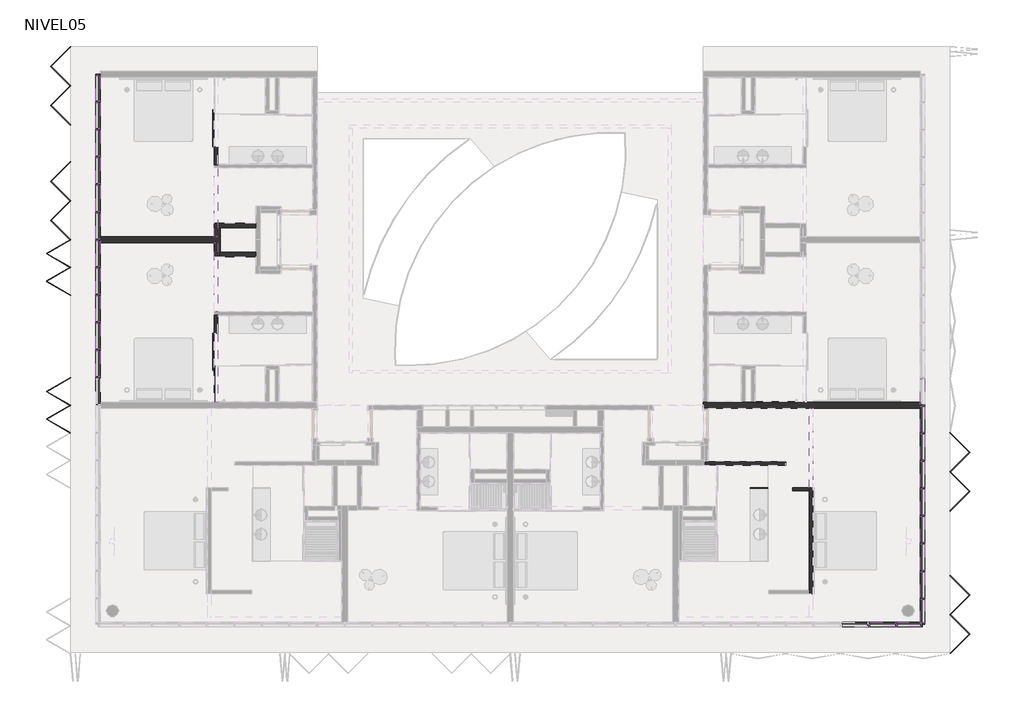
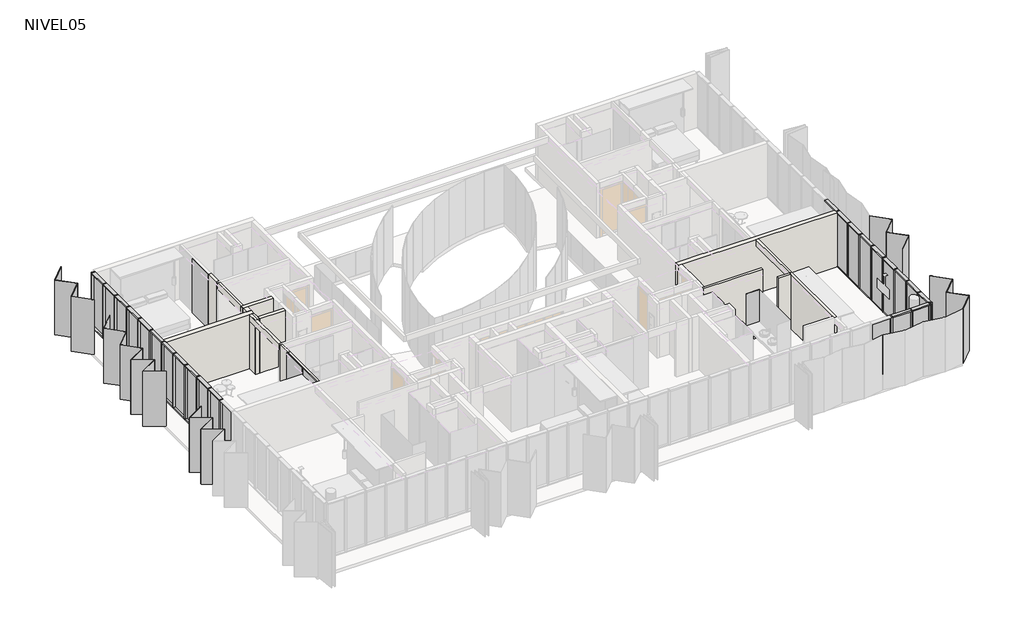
# One storey, part 4 of 8: 69 members, 30 plates, 18 walls.
"""IFC4 building model written with IfcOpenShell, lengths in millimetres."""

from ifc_helpers import new_model, si_unit, frame, origin, place, context, project, spatial, polyline, outline, extrude, faceted_brep, transform, mapped, element, save
from components import rectangular_mullion_50_x_150mm_8dc60d6a, rectangular_mullion_50_x_150mm_324a6438, rectangular_mullion_50_x_150mm_d09437e2, rectangular_mullion_50_x_150mm_5dc04e1f, rectangular_mullion_50_x_150mm_33c2bde1, rectangular_mullion_50_x_150mm_da4cfd0d, folding_hd_folding_hd_45_d1567fec, folding_hd_folding_hd_45_306ecaba, folding_hd_folding_hd_60_29c1f600, panel_corredera_cr_panel_corredera_8db39db7, panel_corredera_cr_panel_corredera_0b5135b5, system_panel_cr_shower_8ff19449, system_panel_cr_shower_d0c7b907, system_panel_glazed_8b30d0e9, system_panel_glazed_8b1c2311, system_panel_glazed_24c908d7, system_panel_glazed_6ccc6dc1

model = new_model("IFC4")

# Units and contexts
model_context = context("Model", 3, world=origin())
ifc_project = project(units=[si_unit("LENGTHUNIT", "METRE", prefix="MILLI")], contexts=[model_context])

# Site, building, storey
site = spatial("IfcSite", under=ifc_project)
building = spatial("IfcBuilding", under=site)
storey = spatial("IfcBuildingStorey", under=building, Name="NIVEL05", Elevation=10660.0)

# Members
placement = place(None, origin())
rectangular_mullion_50_x_150mm_shape = rectangular_mullion_50_x_150mm_8dc60d6a(model_context)
element("IfcMember", 1, ObjectType="Rectangular Mullion : 50 x 150mm", at=placement, inside=storey, context=model_context, shape_type="MappedRepresentation", body=[
    mapped(rectangular_mullion_50_x_150mm_shape, transform((-20633.5934748, 9658.9139237, 13210.0), x_axis=(0.0, 0.0, 1.0), y_axis=(-1.0, 0.0, 0.0), z_axis=(0.0, -1.0, 0.0))),
])
rectangular_mullion_50_x_150mm_2_shape = rectangular_mullion_50_x_150mm_324a6438(model_context)
element("IfcMember", 2, ObjectType="Rectangular Mullion : 50 x 150mm", at=placement, inside=storey, context=model_context, shape_type="MappedRepresentation", body=[
    mapped(rectangular_mullion_50_x_150mm_2_shape, transform((-20633.5934748, 8758.9139237, 13210.0), x_axis=(0.0, 0.0, 1.0), y_axis=(-1.0, 0.0, 0.0), z_axis=(0.0, -1.0, 0.0))),
])
element("IfcMember", 3, ObjectType="Rectangular Mullion : 50 x 150mm", at=placement, inside=storey, context=model_context, shape_type="MappedRepresentation", body=[
    mapped(rectangular_mullion_50_x_150mm_2_shape, transform((-20633.5934748, 7858.9139237, 13210.0), x_axis=(0.0, 0.0, 1.0), y_axis=(-1.0, 0.0, 0.0), z_axis=(0.0, -1.0, 0.0))),
])
element("IfcMember", 4, ObjectType="Rectangular Mullion : 50 x 150mm", at=placement, inside=storey, context=model_context, shape_type="MappedRepresentation", body=[
    mapped(rectangular_mullion_50_x_150mm_2_shape, transform((-20633.5934748, 6958.9139237, 13210.0), x_axis=(0.0, 0.0, 1.0), y_axis=(-1.0, 0.0, 0.0), z_axis=(0.0, -1.0, 0.0))),
])
element("IfcMember", 5, ObjectType="Rectangular Mullion : 50 x 150mm", at=placement, inside=storey, context=model_context, shape_type="MappedRepresentation", body=[
    mapped(rectangular_mullion_50_x_150mm_2_shape, transform((-20633.5934748, 6058.9139237, 13210.0), x_axis=(0.0, 0.0, 1.0), y_axis=(-1.0, 0.0, 0.0), z_axis=(0.0, -1.0, 0.0))),
])
element("IfcMember", 6, ObjectType="Rectangular Mullion : 50 x 150mm", at=placement, inside=storey, context=model_context, shape_type="MappedRepresentation", body=[
    mapped(rectangular_mullion_50_x_150mm_2_shape, transform((-20633.5934748, 5158.9139237, 13210.0), x_axis=(0.0, 0.0, 1.0), y_axis=(-1.0, 0.0, 0.0), z_axis=(0.0, -1.0, 0.0))),
])
element("IfcMember", 7, ObjectType="Rectangular Mullion : 50 x 150mm", at=placement, inside=storey, context=model_context, shape_type="MappedRepresentation", body=[
    mapped(rectangular_mullion_50_x_150mm_2_shape, transform((-20633.5934748, 4258.9139237, 13210.0), x_axis=(0.0, 0.0, 1.0), y_axis=(-1.0, 0.0, 0.0), z_axis=(0.0, -1.0, 0.0))),
])
element("IfcMember", 8, ObjectType="Rectangular Mullion : 50 x 150mm", at=placement, inside=storey, context=model_context, shape_type="MappedRepresentation", body=[
    mapped(rectangular_mullion_50_x_150mm_2_shape, transform((-20633.5934748, 3358.9139237, 13210.0), x_axis=(0.0, 0.0, 1.0), y_axis=(-1.0, 0.0, 0.0), z_axis=(0.0, -1.0, 0.0))),
])
element("IfcMember", 9, ObjectType="Rectangular Mullion : 50 x 150mm", at=placement, inside=storey, context=model_context, shape_type="MappedRepresentation", body=[
    mapped(rectangular_mullion_50_x_150mm_2_shape, transform((-20633.5934748, 2458.9139237, 13210.0), x_axis=(0.0, 0.0, 1.0), y_axis=(-1.0, 0.0, 0.0), z_axis=(0.0, -1.0, 0.0))),
])
element("IfcMember", 10, ObjectType="Rectangular Mullion : 50 x 150mm", at=placement, inside=storey, context=model_context, shape_type="MappedRepresentation", body=[
    mapped(rectangular_mullion_50_x_150mm_2_shape, transform((-20633.5934748, 1558.9139237, 13210.0), x_axis=(0.0, 0.0, 1.0), y_axis=(-1.0, 0.0, 0.0), z_axis=(0.0, -1.0, 0.0))),
])
element("IfcMember", 11, ObjectType="Rectangular Mullion : 50 x 150mm", at=placement, inside=storey, context=model_context, shape_type="MappedRepresentation", body=[
    mapped(rectangular_mullion_50_x_150mm_2_shape, transform((-20633.5934748, 658.9139237, 13210.0), x_axis=(0.0, 0.0, 1.0), y_axis=(-1.0, 0.0, 0.0), z_axis=(0.0, -1.0, 0.0))),
])
element("IfcMember", 12, ObjectType="Rectangular Mullion : 50 x 150mm", at=placement, inside=storey, context=model_context, shape_type="MappedRepresentation", body=[
    mapped(rectangular_mullion_50_x_150mm_shape, transform((-20633.5934748, 10483.9139241, 10640.0), x_axis=(0.0, 0.0, -1.0), y_axis=(-1.0, 0.0, 0.0), z_axis=(0.0, 1.0, 0.0))),
])
element("IfcMember", 13, ObjectType="Rectangular Mullion : 50 x 150mm", at=placement, inside=storey, context=model_context, shape_type="MappedRepresentation", body=[
    mapped(rectangular_mullion_50_x_150mm_2_shape, transform((-20633.5934748, 9608.9139237, 10640.0), x_axis=(0.0, 0.0, -1.0), y_axis=(-1.0, 0.0, 0.0), z_axis=(0.0, 1.0, 0.0))),
])
element("IfcMember", 14, ObjectType="Rectangular Mullion : 50 x 150mm", at=placement, inside=storey, context=model_context, shape_type="MappedRepresentation", body=[
    mapped(rectangular_mullion_50_x_150mm_2_shape, transform((-20633.5934748, 8708.9139237, 10640.0), x_axis=(0.0, 0.0, -1.0), y_axis=(-1.0, 0.0, 0.0), z_axis=(0.0, 1.0, 0.0))),
])
element("IfcMember", 15, ObjectType="Rectangular Mullion : 50 x 150mm", at=placement, inside=storey, context=model_context, shape_type="MappedRepresentation", body=[
    mapped(rectangular_mullion_50_x_150mm_2_shape, transform((-20633.5934748, 7808.9139237, 10640.0), x_axis=(0.0, 0.0, -1.0), y_axis=(-1.0, 0.0, 0.0), z_axis=(0.0, 1.0, 0.0))),
])
element("IfcMember", 16, ObjectType="Rectangular Mullion : 50 x 150mm", at=placement, inside=storey, context=model_context, shape_type="MappedRepresentation", body=[
    mapped(rectangular_mullion_50_x_150mm_2_shape, transform((-20633.5934748, 6908.9139237, 10640.0), x_axis=(0.0, 0.0, -1.0), y_axis=(-1.0, 0.0, 0.0), z_axis=(0.0, 1.0, 0.0))),
])
element("IfcMember", 17, ObjectType="Rectangular Mullion : 50 x 150mm", at=placement, inside=storey, context=model_context, shape_type="MappedRepresentation", body=[
    mapped(rectangular_mullion_50_x_150mm_2_shape, transform((-20633.5934748, 6008.9139237, 10640.0), x_axis=(0.0, 0.0, -1.0), y_axis=(-1.0, 0.0, 0.0), z_axis=(0.0, 1.0, 0.0))),
])
element("IfcMember", 18, ObjectType="Rectangular Mullion : 50 x 150mm", at=placement, inside=storey, context=model_context, shape_type="MappedRepresentation", body=[
    mapped(rectangular_mullion_50_x_150mm_2_shape, transform((-20633.5934748, 5108.9139237, 10640.0), x_axis=(0.0, 0.0, -1.0), y_axis=(-1.0, 0.0, 0.0), z_axis=(0.0, 1.0, 0.0))),
])
element("IfcMember", 19, ObjectType="Rectangular Mullion : 50 x 150mm", at=placement, inside=storey, context=model_context, shape_type="MappedRepresentation", body=[
    mapped(rectangular_mullion_50_x_150mm_2_shape, transform((-20633.5934748, 4208.9139237, 10640.0), x_axis=(0.0, 0.0, -1.0), y_axis=(-1.0, 0.0, 0.0), z_axis=(0.0, 1.0, 0.0))),
])
element("IfcMember", 20, ObjectType="Rectangular Mullion : 50 x 150mm", at=placement, inside=storey, context=model_context, shape_type="MappedRepresentation", body=[
    mapped(rectangular_mullion_50_x_150mm_2_shape, transform((-20633.5934748, 3308.9139237, 10640.0), x_axis=(0.0, 0.0, -1.0), y_axis=(-1.0, 0.0, 0.0), z_axis=(0.0, 1.0, 0.0))),
])
element("IfcMember", 21, ObjectType="Rectangular Mullion : 50 x 150mm", at=placement, inside=storey, context=model_context, shape_type="MappedRepresentation", body=[
    mapped(rectangular_mullion_50_x_150mm_2_shape, transform((-20633.5934748, 2408.9139237, 10640.0), x_axis=(0.0, 0.0, -1.0), y_axis=(-1.0, 0.0, 0.0), z_axis=(0.0, 1.0, 0.0))),
])
element("IfcMember", 22, ObjectType="Rectangular Mullion : 50 x 150mm", at=placement, inside=storey, context=model_context, shape_type="MappedRepresentation", body=[
    mapped(rectangular_mullion_50_x_150mm_2_shape, transform((-20633.5934748, 1508.9139237, 10640.0), x_axis=(0.0, 0.0, -1.0), y_axis=(-1.0, 0.0, 0.0), z_axis=(0.0, 1.0, 0.0))),
])
element("IfcMember", 23, ObjectType="Rectangular Mullion : 50 x 150mm", at=placement, inside=storey, context=model_context, shape_type="MappedRepresentation", body=[
    mapped(rectangular_mullion_50_x_150mm_2_shape, transform((-20633.5934748, 608.9139237, 10640.0), x_axis=(0.0, 0.0, -1.0), y_axis=(-1.0, 0.0, 0.0), z_axis=(0.0, 1.0, 0.0))),
])
element("IfcMember", 24, ObjectType="Rectangular Mullion : 50 x 150mm", at=placement, inside=storey, context=model_context, shape_type="MappedRepresentation", body=[
    mapped(rectangular_mullion_50_x_150mm_2_shape, transform((4541.4065252, -7416.0860759, 13210.0), x_axis=(0.0, 0.0, 1.0), y_axis=(0.0, 1.0, 0.0), z_axis=(-1.0, 0.0, 0.0))),
])
element("IfcMember", 25, ObjectType="Rectangular Mullion : 50 x 150mm", at=placement, inside=storey, context=model_context, shape_type="MappedRepresentation", body=[
    mapped(rectangular_mullion_50_x_150mm_2_shape, transform((4491.4065252, -7416.0860759, 10640.0), x_axis=(0.0, 0.0, -1.0), y_axis=(0.0, 1.0, 0.0), z_axis=(1.0, 0.0, 0.0))),
])
element("IfcMember", 26, ObjectType="Rectangular Mullion : 50 x 150mm", at=placement, inside=storey, context=model_context, shape_type="MappedRepresentation", body=[
    mapped(rectangular_mullion_50_x_150mm_2_shape, transform((5391.4065252, -7416.0860759, 10640.0), x_axis=(0.0, 0.0, -1.0), y_axis=(0.0, 1.0, 0.0), z_axis=(1.0, 0.0, 0.0))),
])
rectangular_mullion_50_x_150mm_3_shape = rectangular_mullion_50_x_150mm_d09437e2(model_context)
element("IfcMember", 27, ObjectType="Rectangular Mullion : 50 x 150mm", at=placement, inside=storey, context=model_context, shape_type="MappedRepresentation", body=[
    mapped(rectangular_mullion_50_x_150mm_3_shape, transform((6266.4065252, -7366.0860759, 13210.0), x_axis=(0.0, 0.0, 1.0), y_axis=(-1.0, 0.0, 0.0), z_axis=(0.0, -1.0, 0.0))),
])
element("IfcMember", 28, ObjectType="Rectangular Mullion : 50 x 150mm", at=placement, inside=storey, context=model_context, shape_type="MappedRepresentation", body=[
    mapped(rectangular_mullion_50_x_150mm_2_shape, transform((6266.4065252, -241.0860763, 13210.0), x_axis=(0.0, 0.0, 1.0), y_axis=(-1.0, 0.0, 0.0), z_axis=(0.0, -1.0, 0.0))),
])
element("IfcMember", 29, ObjectType="Rectangular Mullion : 50 x 150mm", at=placement, inside=storey, context=model_context, shape_type="MappedRepresentation", body=[
    mapped(rectangular_mullion_50_x_150mm_2_shape, transform((6266.4065252, -1141.0860763, 13210.0), x_axis=(0.0, 0.0, 1.0), y_axis=(-1.0, 0.0, 0.0), z_axis=(0.0, -1.0, 0.0))),
])
element("IfcMember", 30, ObjectType="Rectangular Mullion : 50 x 150mm", at=placement, inside=storey, context=model_context, shape_type="MappedRepresentation", body=[
    mapped(rectangular_mullion_50_x_150mm_2_shape, transform((6266.4065252, -2041.0860763, 13210.0), x_axis=(0.0, 0.0, 1.0), y_axis=(-1.0, 0.0, 0.0), z_axis=(0.0, -1.0, 0.0))),
])
element("IfcMember", 31, ObjectType="Rectangular Mullion : 50 x 150mm", at=placement, inside=storey, context=model_context, shape_type="MappedRepresentation", body=[
    mapped(rectangular_mullion_50_x_150mm_2_shape, transform((6266.4065252, -2941.0860763, 13210.0), x_axis=(0.0, 0.0, 1.0), y_axis=(-1.0, 0.0, 0.0), z_axis=(0.0, -1.0, 0.0))),
])
element("IfcMember", 32, ObjectType="Rectangular Mullion : 50 x 150mm", at=placement, inside=storey, context=model_context, shape_type="MappedRepresentation", body=[
    mapped(rectangular_mullion_50_x_150mm_2_shape, transform((6266.4065252, -3841.0860763, 13210.0), x_axis=(0.0, 0.0, 1.0), y_axis=(-1.0, 0.0, 0.0), z_axis=(0.0, -1.0, 0.0))),
])
element("IfcMember", 33, ObjectType="Rectangular Mullion : 50 x 150mm", at=placement, inside=storey, context=model_context, shape_type="MappedRepresentation", body=[
    mapped(rectangular_mullion_50_x_150mm_2_shape, transform((6266.4065252, -4741.0860763, 13210.0), x_axis=(0.0, 0.0, 1.0), y_axis=(-1.0, 0.0, 0.0), z_axis=(0.0, -1.0, 0.0))),
])
element("IfcMember", 34, ObjectType="Rectangular Mullion : 50 x 150mm", at=placement, inside=storey, context=model_context, shape_type="MappedRepresentation", body=[
    mapped(rectangular_mullion_50_x_150mm_2_shape, transform((6266.4065252, -5641.0860763, 13210.0), x_axis=(0.0, 0.0, 1.0), y_axis=(-1.0, 0.0, 0.0), z_axis=(0.0, -1.0, 0.0))),
])
element("IfcMember", 35, ObjectType="Rectangular Mullion : 50 x 150mm", at=placement, inside=storey, context=model_context, shape_type="MappedRepresentation", body=[
    mapped(rectangular_mullion_50_x_150mm_2_shape, transform((6266.4065252, -6541.0860763, 13210.0), x_axis=(0.0, 0.0, 1.0), y_axis=(-1.0, 0.0, 0.0), z_axis=(0.0, -1.0, 0.0))),
])
element("IfcMember", 36, ObjectType="Rectangular Mullion : 50 x 150mm", at=placement, inside=storey, context=model_context, shape_type="MappedRepresentation", body=[
    mapped(rectangular_mullion_50_x_150mm_2_shape, transform((6266.4065252, -291.0860763, 10640.0), x_axis=(0.0, 0.0, -1.0), y_axis=(-1.0, 0.0, 0.0), z_axis=(0.0, 1.0, 0.0))),
])
element("IfcMember", 37, ObjectType="Rectangular Mullion : 50 x 150mm", at=placement, inside=storey, context=model_context, shape_type="MappedRepresentation", body=[
    mapped(rectangular_mullion_50_x_150mm_2_shape, transform((6266.4065252, -1191.0860763, 10640.0), x_axis=(0.0, 0.0, -1.0), y_axis=(-1.0, 0.0, 0.0), z_axis=(0.0, 1.0, 0.0))),
])
element("IfcMember", 38, ObjectType="Rectangular Mullion : 50 x 150mm", at=placement, inside=storey, context=model_context, shape_type="MappedRepresentation", body=[
    mapped(rectangular_mullion_50_x_150mm_2_shape, transform((6266.4065252, -2091.0860763, 10640.0), x_axis=(0.0, 0.0, -1.0), y_axis=(-1.0, 0.0, 0.0), z_axis=(0.0, 1.0, 0.0))),
])
element("IfcMember", 39, ObjectType="Rectangular Mullion : 50 x 150mm", at=placement, inside=storey, context=model_context, shape_type="MappedRepresentation", body=[
    mapped(rectangular_mullion_50_x_150mm_2_shape, transform((6266.4065252, -2991.0860763, 10640.0), x_axis=(0.0, 0.0, -1.0), y_axis=(-1.0, 0.0, 0.0), z_axis=(0.0, 1.0, 0.0))),
])
element("IfcMember", 40, ObjectType="Rectangular Mullion : 50 x 150mm", at=placement, inside=storey, context=model_context, shape_type="MappedRepresentation", body=[
    mapped(rectangular_mullion_50_x_150mm_2_shape, transform((6266.4065252, -3891.0860763, 10640.0), x_axis=(0.0, 0.0, -1.0), y_axis=(-1.0, 0.0, 0.0), z_axis=(0.0, 1.0, 0.0))),
])
element("IfcMember", 41, ObjectType="Rectangular Mullion : 50 x 150mm", at=placement, inside=storey, context=model_context, shape_type="MappedRepresentation", body=[
    mapped(rectangular_mullion_50_x_150mm_2_shape, transform((6266.4065252, -4791.0860763, 10640.0), x_axis=(0.0, 0.0, -1.0), y_axis=(-1.0, 0.0, 0.0), z_axis=(0.0, 1.0, 0.0))),
])
element("IfcMember", 42, ObjectType="Rectangular Mullion : 50 x 150mm", at=placement, inside=storey, context=model_context, shape_type="MappedRepresentation", body=[
    mapped(rectangular_mullion_50_x_150mm_2_shape, transform((6266.4065252, -5691.0860763, 10640.0), x_axis=(0.0, 0.0, -1.0), y_axis=(-1.0, 0.0, 0.0), z_axis=(0.0, 1.0, 0.0))),
])
element("IfcMember", 43, ObjectType="Rectangular Mullion : 50 x 150mm", at=placement, inside=storey, context=model_context, shape_type="MappedRepresentation", body=[
    mapped(rectangular_mullion_50_x_150mm_3_shape, transform((6266.4065252, -6591.0860763, 10640.0), x_axis=(0.0, 0.0, -1.0), y_axis=(-1.0, 0.0, 0.0), z_axis=(0.0, 1.0, 0.0))),
])
rectangular_mullion_50_x_150mm_4_shape = rectangular_mullion_50_x_150mm_5dc04e1f(model_context)
element("IfcMember", 44, ObjectType="Rectangular Mullion : 50 x 150mm", at=placement, inside=storey, context=model_context, shape_type="MappedRepresentation", body=[
    mapped(rectangular_mullion_50_x_150mm_4_shape, transform((5441.4065252, -7416.0860759, 13210.0), x_axis=(0.0, 0.0, 1.0), y_axis=(0.0, 1.0, 0.0), z_axis=(-1.0, 0.0, 0.0))),
])
element("IfcMember", 45, ObjectType="Rectangular Mullion : 50 x 150mm", at=placement, inside=storey, context=model_context, shape_type="MappedRepresentation", body=[
    mapped(rectangular_mullion_50_x_150mm_4_shape, transform((6216.4065252, -7416.0860759, 10640.0), x_axis=(0.0, 0.0, -1.0), y_axis=(0.0, 1.0, 0.0), z_axis=(1.0, 0.0, 0.0))),
])
rectangular_mullion_50_x_150mm_5_shape = rectangular_mullion_50_x_150mm_33c2bde1(model_context)
element("IfcMember", 46, ObjectType="Rectangular Mullion : 50 x 150mm", at=placement, inside=storey, context=model_context, shape_type="MappedRepresentation", body=[
    mapped(rectangular_mullion_50_x_150mm_5_shape, transform((-20633.5934748, 9633.9139237, 10640.0), x_axis=(0.0, -1.0, 0.0), y_axis=(-1.0, 0.0, 0.0), z_axis=(0.0, 0.0, -1.0))),
])
element("IfcMember", 47, ObjectType="Rectangular Mullion : 50 x 150mm", at=placement, inside=storey, context=model_context, shape_type="MappedRepresentation", body=[
    mapped(rectangular_mullion_50_x_150mm_5_shape, transform((-20633.5934748, 8733.9139237, 10640.0), x_axis=(0.0, -1.0, 0.0), y_axis=(-1.0, 0.0, 0.0), z_axis=(0.0, 0.0, -1.0))),
])
element("IfcMember", 48, ObjectType="Rectangular Mullion : 50 x 150mm", at=placement, inside=storey, context=model_context, shape_type="MappedRepresentation", body=[
    mapped(rectangular_mullion_50_x_150mm_5_shape, transform((-20633.5934748, 7833.9139237, 10640.0), x_axis=(0.0, -1.0, 0.0), y_axis=(-1.0, 0.0, 0.0), z_axis=(0.0, 0.0, -1.0))),
])
element("IfcMember", 49, ObjectType="Rectangular Mullion : 50 x 150mm", at=placement, inside=storey, context=model_context, shape_type="MappedRepresentation", body=[
    mapped(rectangular_mullion_50_x_150mm_5_shape, transform((-20633.5934748, 6933.9139237, 10640.0), x_axis=(0.0, -1.0, 0.0), y_axis=(-1.0, 0.0, 0.0), z_axis=(0.0, 0.0, -1.0))),
])
element("IfcMember", 50, ObjectType="Rectangular Mullion : 50 x 150mm", at=placement, inside=storey, context=model_context, shape_type="MappedRepresentation", body=[
    mapped(rectangular_mullion_50_x_150mm_5_shape, transform((-20633.5934748, 6033.9139237, 10640.0), x_axis=(0.0, -1.0, 0.0), y_axis=(-1.0, 0.0, 0.0), z_axis=(0.0, 0.0, -1.0))),
])
element("IfcMember", 51, ObjectType="Rectangular Mullion : 50 x 150mm", at=placement, inside=storey, context=model_context, shape_type="MappedRepresentation", body=[
    mapped(rectangular_mullion_50_x_150mm_5_shape, transform((-20633.5934748, 5133.9139237, 10640.0), x_axis=(0.0, -1.0, 0.0), y_axis=(-1.0, 0.0, 0.0), z_axis=(0.0, 0.0, -1.0))),
])
element("IfcMember", 52, ObjectType="Rectangular Mullion : 50 x 150mm", at=placement, inside=storey, context=model_context, shape_type="MappedRepresentation", body=[
    mapped(rectangular_mullion_50_x_150mm_5_shape, transform((-20633.5934748, 4233.9139237, 10640.0), x_axis=(0.0, -1.0, 0.0), y_axis=(-1.0, 0.0, 0.0), z_axis=(0.0, 0.0, -1.0))),
])
element("IfcMember", 53, ObjectType="Rectangular Mullion : 50 x 150mm", at=placement, inside=storey, context=model_context, shape_type="MappedRepresentation", body=[
    mapped(rectangular_mullion_50_x_150mm_5_shape, transform((-20633.5934748, 3333.9139237, 10640.0), x_axis=(0.0, -1.0, 0.0), y_axis=(-1.0, 0.0, 0.0), z_axis=(0.0, 0.0, -1.0))),
])
element("IfcMember", 54, ObjectType="Rectangular Mullion : 50 x 150mm", at=placement, inside=storey, context=model_context, shape_type="MappedRepresentation", body=[
    mapped(rectangular_mullion_50_x_150mm_5_shape, transform((-20633.5934748, 2433.9139237, 10640.0), x_axis=(0.0, -1.0, 0.0), y_axis=(-1.0, 0.0, 0.0), z_axis=(0.0, 0.0, -1.0))),
])
element("IfcMember", 55, ObjectType="Rectangular Mullion : 50 x 150mm", at=placement, inside=storey, context=model_context, shape_type="MappedRepresentation", body=[
    mapped(rectangular_mullion_50_x_150mm_5_shape, transform((-20633.5934748, 1533.9139237, 10640.0), x_axis=(0.0, -1.0, 0.0), y_axis=(-1.0, 0.0, 0.0), z_axis=(0.0, 0.0, -1.0))),
])
element("IfcMember", 56, ObjectType="Rectangular Mullion : 50 x 150mm", at=placement, inside=storey, context=model_context, shape_type="MappedRepresentation", body=[
    mapped(rectangular_mullion_50_x_150mm_5_shape, transform((-20633.5934748, 633.9139237, 10640.0), x_axis=(0.0, -1.0, 0.0), y_axis=(-1.0, 0.0, 0.0), z_axis=(0.0, 0.0, -1.0))),
])
rectangular_mullion_50_x_150mm_6_shape = rectangular_mullion_50_x_150mm_da4cfd0d(model_context)
element("IfcMember", 57, ObjectType="Rectangular Mullion : 50 x 150mm", at=placement, inside=storey, context=model_context, shape_type="MappedRepresentation", body=[
    mapped(rectangular_mullion_50_x_150mm_6_shape, transform((-20633.5934748, 10533.9139241, 13210.0), x_axis=(0.0, 1.0, 0.0), y_axis=(-1.0, 0.0, 0.0), z_axis=(0.0, 0.0, 1.0))),
])
element("IfcMember", 58, ObjectType="Rectangular Mullion : 50 x 150mm", at=placement, inside=storey, context=model_context, shape_type="MappedRepresentation", body=[
    mapped(rectangular_mullion_50_x_150mm_5_shape, transform((4516.4065252, -7416.0860759, 10640.0), x_axis=(-1.0, 0.0, 0.0), y_axis=(0.0, 1.0, 0.0), z_axis=(0.0, 0.0, -1.0))),
])
element("IfcMember", 59, ObjectType="Rectangular Mullion : 50 x 150mm", at=placement, inside=storey, context=model_context, shape_type="MappedRepresentation", body=[
    mapped(rectangular_mullion_50_x_150mm_5_shape, transform((5416.4065252, -7416.0860759, 10640.0), x_axis=(-1.0, 0.0, 0.0), y_axis=(0.0, 1.0, 0.0), z_axis=(0.0, 0.0, -1.0))),
])
element("IfcMember", 60, ObjectType="Rectangular Mullion : 50 x 150mm", at=placement, inside=storey, context=model_context, shape_type="MappedRepresentation", body=[
    mapped(rectangular_mullion_50_x_150mm_6_shape, transform((6266.4065252, -7416.0860759, 13210.0), x_axis=(1.0, 0.0, 0.0), y_axis=(0.0, 1.0, 0.0), z_axis=(0.0, 0.0, 1.0))),
])
element("IfcMember", 61, ObjectType="Rectangular Mullion : 50 x 150mm", at=placement, inside=storey, context=model_context, shape_type="MappedRepresentation", body=[
    mapped(rectangular_mullion_50_x_150mm_5_shape, transform((6266.4065252, -266.0860763, 10640.0), x_axis=(0.0, -1.0, 0.0), y_axis=(-1.0, 0.0, 0.0), z_axis=(0.0, 0.0, -1.0))),
])
element("IfcMember", 62, ObjectType="Rectangular Mullion : 50 x 150mm", at=placement, inside=storey, context=model_context, shape_type="MappedRepresentation", body=[
    mapped(rectangular_mullion_50_x_150mm_5_shape, transform((6266.4065252, -1166.0860763, 10640.0), x_axis=(0.0, -1.0, 0.0), y_axis=(-1.0, 0.0, 0.0), z_axis=(0.0, 0.0, -1.0))),
])
element("IfcMember", 63, ObjectType="Rectangular Mullion : 50 x 150mm", at=placement, inside=storey, context=model_context, shape_type="MappedRepresentation", body=[
    mapped(rectangular_mullion_50_x_150mm_5_shape, transform((6266.4065252, -2066.0860763, 10640.0), x_axis=(0.0, -1.0, 0.0), y_axis=(-1.0, 0.0, 0.0), z_axis=(0.0, 0.0, -1.0))),
])
element("IfcMember", 64, ObjectType="Rectangular Mullion : 50 x 150mm", at=placement, inside=storey, context=model_context, shape_type="MappedRepresentation", body=[
    mapped(rectangular_mullion_50_x_150mm_5_shape, transform((6266.4065252, -2966.0860763, 10640.0), x_axis=(0.0, -1.0, 0.0), y_axis=(-1.0, 0.0, 0.0), z_axis=(0.0, 0.0, -1.0))),
])
element("IfcMember", 65, ObjectType="Rectangular Mullion : 50 x 150mm", at=placement, inside=storey, context=model_context, shape_type="MappedRepresentation", body=[
    mapped(rectangular_mullion_50_x_150mm_5_shape, transform((6266.4065252, -3866.0860763, 10640.0), x_axis=(0.0, -1.0, 0.0), y_axis=(-1.0, 0.0, 0.0), z_axis=(0.0, 0.0, -1.0))),
])
element("IfcMember", 66, ObjectType="Rectangular Mullion : 50 x 150mm", at=placement, inside=storey, context=model_context, shape_type="MappedRepresentation", body=[
    mapped(rectangular_mullion_50_x_150mm_5_shape, transform((6266.4065252, -4766.0860763, 10640.0), x_axis=(0.0, -1.0, 0.0), y_axis=(-1.0, 0.0, 0.0), z_axis=(0.0, 0.0, -1.0))),
])
element("IfcMember", 67, ObjectType="Rectangular Mullion : 50 x 150mm", at=placement, inside=storey, context=model_context, shape_type="MappedRepresentation", body=[
    mapped(rectangular_mullion_50_x_150mm_5_shape, transform((6266.4065252, -5666.0860763, 10640.0), x_axis=(0.0, -1.0, 0.0), y_axis=(-1.0, 0.0, 0.0), z_axis=(0.0, 0.0, -1.0))),
])
element("IfcMember", 68, ObjectType="Rectangular Mullion : 50 x 150mm", at=placement, inside=storey, context=model_context, shape_type="MappedRepresentation", body=[
    mapped(rectangular_mullion_50_x_150mm_5_shape, transform((6266.4065252, -6566.0860763, 10640.0), x_axis=(0.0, -1.0, 0.0), y_axis=(-1.0, 0.0, 0.0), z_axis=(0.0, 0.0, -1.0))),
])
element("IfcMember", 69, ObjectType="Rectangular Mullion : 50 x 150mm", at=placement, inside=storey, context=model_context, shape_type="MappedRepresentation", body=[
    mapped(rectangular_mullion_50_x_150mm_6_shape, transform((6266.4065252, -7416.0860759, 10640.0), x_axis=(0.0, -1.0, 0.0), y_axis=(-1.0, 0.0, 0.0), z_axis=(0.0, 0.0, -1.0))),
])

# Plates
folding_hd_folding_hd_45_shape = folding_hd_folding_hd_45_d1567fec(model_context)
element("IfcPlate", 70, ObjectType="FOLDING HD : FOLDING HD 45", at=placement, inside=storey, context=model_context, shape_type="MappedRepresentation", body=[
    mapped(folding_hd_folding_hd_45_shape, transform((7166.4065252, -4766.0860759, 10640.0), x_axis=(0.0, -1.0, 0.0), y_axis=(1.0, 0.0, 0.0), z_axis=(0.0, 0.0, 1.0))),
])
folding_hd_folding_hd_45_2_shape = folding_hd_folding_hd_45_306ecaba(model_context)
element("IfcPlate", 71, ObjectType="FOLDING HD : FOLDING HD 45", at=placement, inside=storey, context=model_context, shape_type="MappedRepresentation", body=[
    mapped(folding_hd_folding_hd_45_2_shape, transform((-21533.5934748, 8283.9139241, 10640.0), x_axis=(0.0, -1.0, 0.0), y_axis=(1.0, 0.0, 0.0), z_axis=(0.0, 0.0, 1.0))),
])
folding_hd_folding_hd_60_shape = folding_hd_folding_hd_60_29c1f600(model_context)
element("IfcPlate", 72, ObjectType="FOLDING HD : FOLDING HD 60", at=placement, inside=storey, context=model_context, shape_type="MappedRepresentation", body=[
    mapped(folding_hd_folding_hd_60_shape, transform((-21533.5934748, 1983.9139241, 10640.0), x_axis=(0.0, -1.0, 0.0), y_axis=(1.0, 0.0, 0.0), z_axis=(0.0, 0.0, 1.0))),
])
panel_corredera_cr_panel_corredera_shape = panel_corredera_cr_panel_corredera_8db39db7(model_context)
element("IfcPlate", 73, ObjectType="PANEL CORREDERA : CR_PANEL CORREDERA", at=placement, inside=storey, context=model_context, shape_type="MappedRepresentation", body=[
    mapped(panel_corredera_cr_panel_corredera_shape, transform((-16848.5934748, 8703.9139241, 10660.0), x_axis=(0.0, 1.0, 0.0), y_axis=(-1.0, 0.0, 0.0), z_axis=(0.0, 0.0, 1.0))),
])
panel_corredera_cr_panel_corredera_2_shape = panel_corredera_cr_panel_corredera_0b5135b5(model_context)
element("IfcPlate", 74, ObjectType="PANEL CORREDERA : CR_PANEL CORREDERA", at=placement, inside=storey, context=model_context, shape_type="MappedRepresentation", body=[
    mapped(panel_corredera_cr_panel_corredera_2_shape, transform((-16848.5934748, 1563.9139241, 10660.0), x_axis=(0.0, -1.0, 0.0), y_axis=(1.0, 0.0, 0.0), z_axis=(0.0, 0.0, 1.0))),
])
system_panel_cr_shower_shape = system_panel_cr_shower_8ff19449(model_context)
element("IfcPlate", 75, ObjectType="System Panel : CR-SHOWER", at=placement, inside=storey, context=model_context, shape_type="MappedRepresentation", body=[
    mapped(system_panel_cr_shower_shape, transform((936.4065252, -2966.0860763, 10660.0), x_axis=(1.0, 0.0, 0.0), y_axis=(0.0, 1.0, 0.0), z_axis=(0.0, 0.0, 1.0))),
])
system_panel_cr_shower_2_shape = system_panel_cr_shower_d0c7b907(model_context)
element("IfcPlate", 76, ObjectType="System Panel : CR-SHOWER", at=placement, inside=storey, context=model_context, shape_type="MappedRepresentation", body=[
    mapped(system_panel_cr_shower_2_shape, transform((-16848.5934748, 433.9139241, 10660.0), x_axis=(0.0, -1.0, 0.0), y_axis=(1.0, 0.0, 0.0), z_axis=(0.0, 0.0, 1.0))),
])
system_panel_glazed_shape = system_panel_glazed_8b30d0e9(model_context)
element("IfcPlate", 77, ObjectType="System Panel : Glazed", at=placement, inside=storey, context=model_context, shape_type="MappedRepresentation", body=[
    mapped(system_panel_glazed_shape, transform((-20633.5934748, 10071.4139239, 10690.0), x_axis=(0.0, -1.0, 0.0), y_axis=(1.0, 0.0, 0.0), z_axis=(0.0, 0.0, 1.0))),
])
system_panel_glazed_2_shape = system_panel_glazed_8b1c2311(model_context)
element("IfcPlate", 78, ObjectType="System Panel : Glazed", at=placement, inside=storey, context=model_context, shape_type="MappedRepresentation", body=[
    mapped(system_panel_glazed_2_shape, transform((-20633.5934748, 9183.9139237, 10690.0), x_axis=(0.0, -1.0, 0.0), y_axis=(1.0, 0.0, 0.0), z_axis=(0.0, 0.0, 1.0))),
])
element("IfcPlate", 79, ObjectType="System Panel : Glazed", at=placement, inside=storey, context=model_context, shape_type="MappedRepresentation", body=[
    mapped(system_panel_glazed_2_shape, transform((-20633.5934748, 8283.9139237, 10690.0), x_axis=(0.0, -1.0, 0.0), y_axis=(1.0, 0.0, 0.0), z_axis=(0.0, 0.0, 1.0))),
])
element("IfcPlate", 80, ObjectType="System Panel : Glazed", at=placement, inside=storey, context=model_context, shape_type="MappedRepresentation", body=[
    mapped(system_panel_glazed_2_shape, transform((-20633.5934748, 7383.9139237, 10690.0), x_axis=(0.0, -1.0, 0.0), y_axis=(1.0, 0.0, 0.0), z_axis=(0.0, 0.0, 1.0))),
])
element("IfcPlate", 81, ObjectType="System Panel : Glazed", at=placement, inside=storey, context=model_context, shape_type="MappedRepresentation", body=[
    mapped(system_panel_glazed_2_shape, transform((-20633.5934748, 6483.9139237, 10690.0), x_axis=(0.0, -1.0, 0.0), y_axis=(1.0, 0.0, 0.0), z_axis=(0.0, 0.0, 1.0))),
])
element("IfcPlate", 82, ObjectType="System Panel : Glazed", at=placement, inside=storey, context=model_context, shape_type="MappedRepresentation", body=[
    mapped(system_panel_glazed_2_shape, transform((-20633.5934748, 5583.9139237, 10690.0), x_axis=(0.0, -1.0, 0.0), y_axis=(1.0, 0.0, 0.0), z_axis=(0.0, 0.0, 1.0))),
])
element("IfcPlate", 83, ObjectType="System Panel : Glazed", at=placement, inside=storey, context=model_context, shape_type="MappedRepresentation", body=[
    mapped(system_panel_glazed_2_shape, transform((-20633.5934748, 4683.9139237, 10690.0), x_axis=(0.0, -1.0, 0.0), y_axis=(1.0, 0.0, 0.0), z_axis=(0.0, 0.0, 1.0))),
])
element("IfcPlate", 84, ObjectType="System Panel : Glazed", at=placement, inside=storey, context=model_context, shape_type="MappedRepresentation", body=[
    mapped(system_panel_glazed_2_shape, transform((-20633.5934748, 3783.9139237, 10690.0), x_axis=(0.0, -1.0, 0.0), y_axis=(1.0, 0.0, 0.0), z_axis=(0.0, 0.0, 1.0))),
])
element("IfcPlate", 85, ObjectType="System Panel : Glazed", at=placement, inside=storey, context=model_context, shape_type="MappedRepresentation", body=[
    mapped(system_panel_glazed_2_shape, transform((-20633.5934748, 2883.9139237, 10690.0), x_axis=(0.0, -1.0, 0.0), y_axis=(1.0, 0.0, 0.0), z_axis=(0.0, 0.0, 1.0))),
])
element("IfcPlate", 86, ObjectType="System Panel : Glazed", at=placement, inside=storey, context=model_context, shape_type="MappedRepresentation", body=[
    mapped(system_panel_glazed_2_shape, transform((-20633.5934748, 1983.9139237, 10690.0), x_axis=(0.0, -1.0, 0.0), y_axis=(1.0, 0.0, 0.0), z_axis=(0.0, 0.0, 1.0))),
])
element("IfcPlate", 87, ObjectType="System Panel : Glazed", at=placement, inside=storey, context=model_context, shape_type="MappedRepresentation", body=[
    mapped(system_panel_glazed_2_shape, transform((-20633.5934748, 1083.9139237, 10690.0), x_axis=(0.0, -1.0, 0.0), y_axis=(1.0, 0.0, 0.0), z_axis=(0.0, 0.0, 1.0))),
])
element("IfcPlate", 88, ObjectType="System Panel : Glazed", at=placement, inside=storey, context=model_context, shape_type="MappedRepresentation", body=[
    mapped(system_panel_glazed_2_shape, transform((-20633.5934748, 183.9139237, 10690.0), x_axis=(0.0, -1.0, 0.0), y_axis=(1.0, 0.0, 0.0), z_axis=(0.0, 0.0, 1.0))),
])
system_panel_glazed_3_shape = system_panel_glazed_24c908d7(model_context)
element("IfcPlate", 89, ObjectType="System Panel : Glazed", at=placement, inside=storey, context=model_context, shape_type="MappedRepresentation", body=[
    mapped(system_panel_glazed_3_shape, transform((5828.9065252, -7416.0860759, 10690.0), x_axis=(-1.0, 0.0, 0.0), y_axis=(0.0, -1.0, 0.0), z_axis=(0.0, 0.0, 1.0))),
])
element("IfcPlate", 90, ObjectType="System Panel : Glazed", at=placement, inside=storey, context=model_context, shape_type="MappedRepresentation", body=[
    mapped(system_panel_glazed_3_shape, transform((6266.4065252, -6978.5860761, 10690.0), x_axis=(0.0, -1.0, 0.0), y_axis=(1.0, 0.0, 0.0), z_axis=(0.0, 0.0, 1.0))),
])
system_panel_glazed_4_shape = system_panel_glazed_6ccc6dc1(model_context)
element("IfcPlate", 91, ObjectType="System Panel : Glazed", at=placement, inside=storey, context=model_context, shape_type="MappedRepresentation", body=[
    mapped(system_panel_glazed_4_shape, transform((4066.4065252, -7416.0860759, 10690.0), x_axis=(-1.0, 0.0, 0.0), y_axis=(0.0, -1.0, 0.0), z_axis=(0.0, 0.0, 1.0))),
])
element("IfcPlate", 92, ObjectType="System Panel : Glazed", at=placement, inside=storey, context=model_context, shape_type="MappedRepresentation", body=[
    mapped(system_panel_glazed_4_shape, transform((4966.4065252, -7416.0860759, 10690.0), x_axis=(-1.0, 0.0, 0.0), y_axis=(0.0, -1.0, 0.0), z_axis=(0.0, 0.0, 1.0))),
])
element("IfcPlate", 93, ObjectType="System Panel : Glazed", at=placement, inside=storey, context=model_context, shape_type="MappedRepresentation", body=[
    mapped(system_panel_glazed_4_shape, transform((6266.4065252, -716.0860763, 10690.0), x_axis=(0.0, -1.0, 0.0), y_axis=(1.0, 0.0, 0.0), z_axis=(0.0, 0.0, 1.0))),
])
element("IfcPlate", 94, ObjectType="System Panel : Glazed", at=placement, inside=storey, context=model_context, shape_type="MappedRepresentation", body=[
    mapped(system_panel_glazed_4_shape, transform((6266.4065252, -1616.0860763, 10690.0), x_axis=(0.0, -1.0, 0.0), y_axis=(1.0, 0.0, 0.0), z_axis=(0.0, 0.0, 1.0))),
])
element("IfcPlate", 95, ObjectType="System Panel : Glazed", at=placement, inside=storey, context=model_context, shape_type="MappedRepresentation", body=[
    mapped(system_panel_glazed_4_shape, transform((6266.4065252, -2516.0860763, 10690.0), x_axis=(0.0, -1.0, 0.0), y_axis=(1.0, 0.0, 0.0), z_axis=(0.0, 0.0, 1.0))),
])
element("IfcPlate", 96, ObjectType="System Panel : Glazed", at=placement, inside=storey, context=model_context, shape_type="MappedRepresentation", body=[
    mapped(system_panel_glazed_4_shape, transform((6266.4065252, -3416.0860763, 10690.0), x_axis=(0.0, -1.0, 0.0), y_axis=(1.0, 0.0, 0.0), z_axis=(0.0, 0.0, 1.0))),
])
element("IfcPlate", 97, ObjectType="System Panel : Glazed", at=placement, inside=storey, context=model_context, shape_type="MappedRepresentation", body=[
    mapped(system_panel_glazed_4_shape, transform((6266.4065252, -4316.0860763, 10690.0), x_axis=(0.0, -1.0, 0.0), y_axis=(1.0, 0.0, 0.0), z_axis=(0.0, 0.0, 1.0))),
])
element("IfcPlate", 98, ObjectType="System Panel : Glazed", at=placement, inside=storey, context=model_context, shape_type="MappedRepresentation", body=[
    mapped(system_panel_glazed_4_shape, transform((6266.4065252, -5216.0860763, 10690.0), x_axis=(0.0, -1.0, 0.0), y_axis=(1.0, 0.0, 0.0), z_axis=(0.0, 0.0, 1.0))),
])
element("IfcPlate", 99, ObjectType="System Panel : Glazed", at=placement, inside=storey, context=model_context, shape_type="MappedRepresentation", body=[
    mapped(system_panel_glazed_4_shape, transform((6266.4065252, -6116.0860763, 10690.0), x_axis=(0.0, -1.0, 0.0), y_axis=(1.0, 0.0, 0.0), z_axis=(0.0, 0.0, 1.0))),
])

# Walls
element("IfcWall", 100, ObjectType="SCV.TI.A.110.090.143.47.1", at=placement, inside=storey, context=model_context, shape_type="Brep", body=[
    faceted_brep([(-16738.5934748, 7593.9139241, 13210.0), (-16738.5934748, 7593.9139241, 10640.0), (-16738.5934748, 8173.9139241, 10640.0), (-16738.5934748, 8173.9139241, 12910.0), (-16738.5934748, 8173.9139241, 13210.0), (-16848.5934748, 7593.9139241, 10640.0), (-16848.5934748, 7593.9139241, 13210.0), (-16848.5934748, 8173.9139241, 13210.0), (-16848.5934748, 8173.9139241, 10640.0)], [[[0, 1, 2, 3, 4]], [[5, 6, 7, 8]], [[2, 1, 5, 8]], [[4, 3, 2, 8, 7]], [[0, 4, 7, 6]], [[0, 6, 5, 1]]]),
])
element("IfcWall", 101, ObjectType="REV-PORCELANATO_60*60", at=placement, inside=storey, context=model_context, shape_type="Brep", body=[
    faceted_brep([(-16728.5934748, 7593.9139241, 10680.0), (-16728.5934748, 7603.9139241, 10680.0), (-16728.5934748, 8173.9139241, 10680.0), (-16728.5934748, 8173.9139241, 12920.0), (-16728.5934748, 7603.9139241, 12920.0), (-16728.5934748, 7593.9139241, 12920.0), (-16738.5934748, 7593.9139241, 10680.0), (-16738.5934748, 7593.9139241, 12920.0), (-16738.5934748, 8173.9139241, 12920.0), (-16738.5934748, 8173.9139241, 10680.0)], [[[0, 1, 2, 3, 4, 5]], [[6, 7, 8, 9]], [[2, 1, 0, 6, 9]], [[3, 2, 9, 8]], [[5, 4, 3, 8, 7]], [[0, 5, 7, 6]]]),
])
element("IfcWall", 102, ObjectType="SCV.TI.A.110.090.143.47.1", at=placement, inside=storey, context=model_context, shape_type="Brep", body=[
    faceted_brep([(-833.5934748, -2216.0860759, 10640.0), (1806.4065252, -2216.0860759, 10640.0), (1806.4065252, -2216.0860759, 13210.0), (-833.5934748, -2216.0860759, 13210.0), (-833.5934748, -2106.0860759, 10640.0), (-833.5934748, -2106.0860759, 13210.0), (-723.5934748, -2106.0860759, 13210.0), (1806.4065252, -2106.0860759, 13210.0), (1806.4065252, -2106.0860759, 10640.0), (-723.5934748, -2106.0860759, 10640.0)], [[[0, 1, 2, 3]], [[4, 5, 6, 7, 8, 9]], [[1, 0, 4, 9, 8]], [[2, 1, 8, 7]], [[3, 2, 7, 6, 5]], [[0, 3, 5, 4]]]),
])
element("IfcWall", 103, ObjectType="SCV.TI.A.110.090.143.47.1", at=placement, inside=storey, context=model_context, shape_type="SweptSolid", body=[
    extrude(outline(polyline([(2576.4065252, -3061.0658633), (2035.2962079, -3061.0658633), (2035.2962079, -2951.0658633), (2576.4065252, -2951.0658633), (2576.4065252, -3061.0658633)])), frame((0.0, 0.0, 10640.0), z_axis=(0.0, 0.0, 1.0), x_axis=(1.0, 0.0, 0.0)), (0.0, 0.0, 1.0), 2570.0),
])
element("IfcWall", 104, ObjectType="SCV.TI.A.110.090.143.47.1", at=placement, inside=storey, context=model_context, shape_type="Brep", body=[
    faceted_brep([(2686.4065252, -6411.0658633, 13210.0), (2686.4065252, -6411.0658633, 12910.0), (2686.4065252, -6411.0658633, 10640.0), (2686.4065252, -2951.0658633, 10640.0), (2686.4065252, -2951.0658633, 12910.0), (2686.4065252, -2951.0658633, 13210.0), (2576.4065252, -6411.0658633, 10640.0), (2576.4065252, -6411.0658633, 12910.0), (2576.4065252, -6411.0658633, 13210.0), (2576.4065252, -6301.0658633, 13210.0), (2576.4065252, -3061.0658633, 13210.0), (2576.4065252, -2951.0658633, 13210.0), (2576.4065252, -2951.0658633, 12910.0), (2576.4065252, -2951.0658633, 10640.0), (2576.4065252, -3061.0658633, 10640.0), (2576.4065252, -6301.0658633, 10640.0)], [[[0, 1, 2, 3, 4, 5]], [[6, 7, 8, 9, 10, 11, 12, 13, 14, 15]], [[3, 2, 6, 15, 14, 13]], [[0, 5, 11, 10, 9, 8]], [[0, 8, 7, 6, 2, 1]], [[3, 13, 12, 11, 5, 4]]]),
])
element("IfcWall", 105, ObjectType="SCV.TI.A.110.090.143.47.1 2", at=placement, inside=storey, context=model_context, shape_type="SweptSolid", body=[
    extrude(outline(polyline([(-16848.5934748, 5233.9139241), (-16848.5934748, 7483.9139241), (-16738.5934748, 7483.9139241), (-16738.5934748, 5233.9139241), (-16848.5934748, 5233.9139241)])), frame((0.0, 0.0, 12910.0), z_axis=(0.0, 0.0, 1.0), x_axis=(1.0, 0.0, 0.0)), (0.0, 0.0, 1.0), 300.0),
])
element("IfcWall", 106, ObjectType="SCV.TI.A.110.090.143.47.1 2", at=placement, inside=storey, context=model_context, shape_type="SweptSolid", body=[
    extrude(outline(polyline([(2686.4065252, -366.0860759), (2686.4065252, -2951.0658633), (2576.4065252, -2951.0658633), (2576.4065252, -366.0860759), (2686.4065252, -366.0860759)])), frame((0.0, 0.0, 12910.0), z_axis=(0.0, 0.0, 1.0), x_axis=(1.0, 0.0, 0.0)), (0.0, 0.0, 1.0), 300.0),
])
element("IfcWall", 107, ObjectType="SCV.TI.A.150.120.212.47.1", at=placement, inside=storey, context=model_context, shape_type="SweptSolid", body=[
    extrude(outline(polyline([(-15493.5934748, 5533.9139241), (-16848.5934748, 5533.9139241), (-16848.5934748, 5683.9139241), (-15493.5934748, 5683.9139241), (-15493.5934748, 5533.9139241)])), frame((0.0, 0.0, 10640.0), z_axis=(0.0, 0.0, 1.0), x_axis=(1.0, 0.0, 0.0)), (0.0, 0.0, 1.0), 2570.0),
])
element("IfcWall", 108, ObjectType="SCV.TI.A.110.090.143.47.1", at=placement, inside=storey, context=model_context, shape_type="Brep", body=[
    faceted_brep([(-16848.5934748, 2673.9139241, 13210.0), (-16848.5934748, 2673.9139241, 10640.0), (-16848.5934748, 2093.9139241, 10640.0), (-16848.5934748, 2093.9139241, 13210.0), (-16738.5934748, 2673.9139241, 10640.0), (-16738.5934748, 2673.9139241, 13210.0), (-16738.5934748, 2093.9139241, 13210.0), (-16738.5934748, 2093.9139241, 12965.0), (-16738.5934748, 2093.9139241, 10640.0)], [[[0, 1, 2, 3]], [[4, 5, 6, 7, 8]], [[2, 1, 4, 8]], [[3, 2, 8, 7, 6]], [[0, 3, 6, 5]], [[0, 5, 4, 1]]]),
])
element("IfcWall", 109, ObjectType="REV-PORCELANATO_60*60", at=placement, inside=storey, context=model_context, shape_type="Brep", body=[
    faceted_brep([(-16738.5934748, 2673.9139241, 10680.0), (-16738.5934748, 2093.9139241, 10680.0), (-16738.5934748, 2093.9139241, 12920.0), (-16738.5934748, 2673.9139241, 12920.0), (-16728.5934748, 2673.9139241, 10680.0), (-16728.5934748, 2673.9139241, 12920.0), (-16728.5934748, 2663.9139241, 12920.0), (-16728.5934748, 2093.9139241, 12920.0), (-16728.5934748, 2093.9139241, 10680.0), (-16728.5934748, 2663.9139241, 10680.0)], [[[0, 1, 2, 3]], [[4, 5, 6, 7, 8, 9]], [[1, 0, 4, 9, 8]], [[2, 1, 8, 7]], [[3, 2, 7, 6, 5]], [[0, 3, 5, 4]]]),
])
element("IfcWall", 110, ObjectType="SCV.TI.A.110.090.143.47.1 2", at=placement, inside=storey, context=model_context, shape_type="SweptSolid", body=[
    extrude(outline(polyline([(-161.0860759, 13210.0), (2093.9139241, 13210.0), (2093.9139241, 12965.0), (-156.0860759, 12965.0), (-156.0860759, 12910.0), (-161.0860759, 12910.0), (-161.0860759, 13210.0)])), frame((-16848.5934748, 0.0, 0.0), z_axis=(1.0, 0.0, 0.0), x_axis=(0.0, 1.0, 0.0)), (0.0, 0.0, 1.0), 110.0),
])
element("IfcWall", 111, ObjectType="SCV.TI.A.110.090.143.47.1 2", at=placement, inside=storey, context=model_context, shape_type="SweptSolid", body=[
    extrude(outline(polyline([(-16738.5934748, 5033.9139241), (-16738.5934748, 2783.9139241), (-16848.5934748, 2783.9139241), (-16848.5934748, 5033.9139241), (-16738.5934748, 5033.9139241)])), frame((0.0, 0.0, 12910.0), z_axis=(0.0, 0.0, 1.0), x_axis=(1.0, 0.0, 0.0)), (0.0, 0.0, 1.0), 300.0),
])
element("IfcWall", 112, ObjectType="SCV.TI.A.150.120.212.47.1", at=placement, inside=storey, context=model_context, shape_type="SweptSolid", body=[
    extrude(outline(polyline([(-15493.5934748, 4583.9139241), (-16848.5934748, 4583.9139241), (-16848.5934748, 4598.9139241), (-16648.5934748, 4598.9139241), (-16648.5934748, 4733.9139241), (-15493.5934748, 4733.9139241), (-15493.5934748, 4583.9139241)])), frame((0.0, 0.0, 10640.0), z_axis=(0.0, 0.0, 1.0), x_axis=(1.0, 0.0, 0.0)), (0.0, 0.0, 1.0), 2570.0),
])
element("IfcWall", 113, ObjectType="REV-PORCELANATO_60*60", at=placement, inside=storey, context=model_context, shape_type="SweptSolid", body=[
    extrude(outline(polyline([(2426.4065252, -166.0860759), (816.4065252, -166.0860759), (816.4065252, -156.0860759), (2426.4065252, -156.0860759), (2426.4065252, -166.0860759)])), frame((0.0, 0.0, 10660.0), z_axis=(0.0, 0.0, 1.0), x_axis=(1.0, 0.0, 0.0)), (0.0, 0.0, 1.0), 2260.0),
])
element("IfcWall", 114, ObjectType="HA-200mm", at=placement, inside=storey, context=model_context, shape_type="Brep", body=[
    faceted_brep([(-16648.5934748, 5233.9139241, 10640.0), (-20558.5934748, 5233.9139241, 10640.0), (-20558.5934748, 5233.9139241, 13210.0), (-16848.5934748, 5233.9139241, 13210.0), (-16738.5934748, 5233.9139241, 13210.0), (-16648.5934748, 5233.9139241, 13210.0), (-16648.5934748, 5033.9139241, 10640.0), (-16648.5934748, 5033.9139241, 13210.0), (-16738.5934748, 5033.9139241, 13210.0), (-16848.5934748, 5033.9139241, 13210.0), (-20558.5934748, 5033.9139241, 13210.0), (-20558.5934748, 5033.9139241, 10640.0)], [[[0, 1, 2, 3, 4, 5]], [[6, 7, 8, 9, 10, 11]], [[1, 0, 6, 11]], [[2, 1, 11, 10]], [[5, 4, 3, 2, 10, 9, 8, 7]], [[0, 5, 7, 6]]]),
])
element("IfcWall", 115, ObjectType="HA-200mm", at=placement, inside=storey, context=model_context, shape_type="Brep", body=[
    faceted_brep([(-883.5934748, -366.0860759, 10640.0), (-873.5934748, -366.0860759, 10640.0), (-723.5934748, -366.0860759, 10640.0), (6191.4065252, -366.0860759, 10640.0), (6191.4065252, -366.0860759, 13210.0), (2686.4065252, -366.0860759, 13210.0), (2576.4065252, -366.0860759, 13210.0), (-723.5934748, -366.0860759, 13210.0), (-873.5934748, -366.0860759, 13210.0), (-883.5934748, -366.0860759, 13210.0), (-883.5934748, -166.0860759, 10640.0), (-883.5934748, -166.0860759, 13210.0), (-733.5934748, -166.0860759, 13210.0), (366.4065252, -166.0860759, 13210.0), (486.4065252, -166.0860759, 13210.0), (686.4065252, -166.0860759, 13210.0), (806.4065252, -166.0860759, 13210.0), (6191.4065252, -166.0860759, 13210.0), (6191.4065252, -166.0860759, 10640.0), (806.4065252, -166.0860759, 10640.0), (686.4065252, -166.0860759, 10640.0), (486.4065252, -166.0860759, 10640.0), (366.4065252, -166.0860759, 10640.0), (-733.5934748, -166.0860759, 10640.0)], [[[0, 1, 2, 3, 4, 5, 6, 7, 8, 9]], [[10, 11, 12, 13, 14, 15, 16, 17, 18, 19, 20, 21, 22, 23]], [[3, 2, 1, 0, 10, 23, 22, 21, 20, 19, 18]], [[4, 3, 18, 17]], [[9, 8, 7, 6, 5, 4, 17, 16, 15, 14, 13, 12, 11]], [[0, 9, 11, 10]]]),
])
element("IfcWall", 116, ObjectType="HA-200mm", at=placement, inside=storey, context=model_context, shape_type="SweptSolid", body=[
    extrude(outline(polyline([(-16648.5934748, 5668.9139241), (-16648.5934748, 5233.9139241), (-16848.5934748, 5233.9139241), (-16848.5934748, 5668.9139241), (-16648.5934748, 5668.9139241)])), frame((0.0, 0.0, 10640.0), z_axis=(0.0, 0.0, 1.0), x_axis=(1.0, 0.0, 0.0)), (0.0, 0.0, 1.0), 2570.0),
])
element("IfcWall", 117, ObjectType="HA-200mm", at=placement, inside=storey, context=model_context, shape_type="Brep", body=[
    faceted_brep([(-16848.5934748, 5033.9139241, 10640.0), (-16848.5934748, 4598.9139241, 10640.0), (-16848.5934748, 4598.9139241, 13210.0), (-16848.5934748, 5033.9139241, 13210.0), (-16648.5934748, 5033.9139241, 10640.0), (-16648.5934748, 5033.9139241, 13210.0), (-16648.5934748, 4733.9139241, 13210.0), (-16648.5934748, 4598.9139241, 13210.0), (-16648.5934748, 4598.9139241, 10640.0), (-16648.5934748, 4733.9139241, 10640.0)], [[[0, 1, 2, 3]], [[4, 5, 6, 7, 8, 9]], [[1, 0, 4, 9, 8]], [[2, 1, 8, 7]], [[3, 2, 7, 6, 5]], [[0, 3, 5, 4]]]),
])

save(model, "model.ifc")
